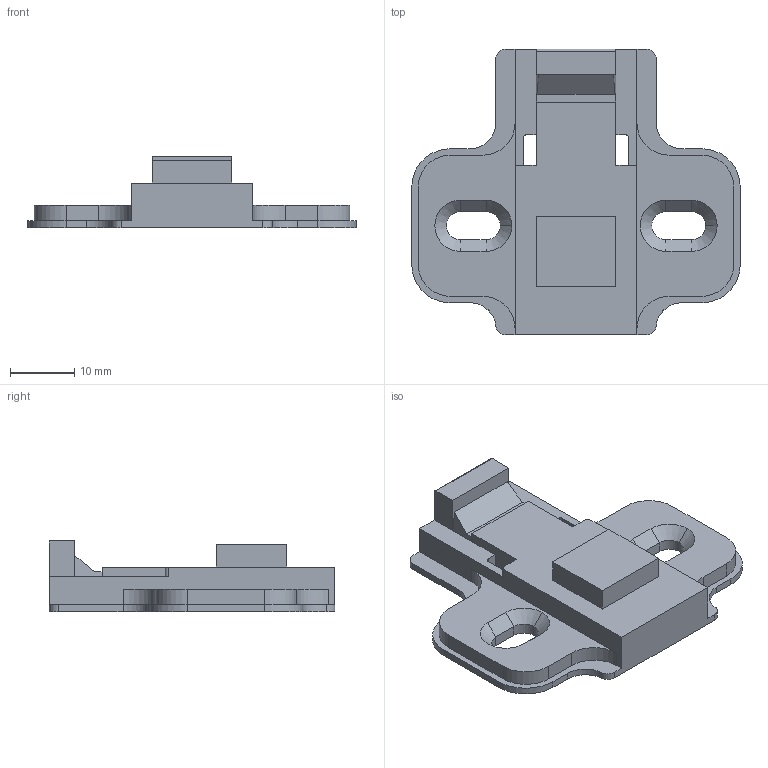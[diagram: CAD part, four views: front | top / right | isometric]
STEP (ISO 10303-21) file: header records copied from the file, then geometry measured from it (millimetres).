
FILE_DESCRIPTION (( 'STEP AP203' ), '1' );
FILE_NAME ('96H20AQ-DTC3D.STEP', '2021-04-13T02:28:41', ( '' ), ( '' ), 'SwSTEP 2.0', 'SolidWorks 2018', '' );
FILE_SCHEMA (( 'CONFIG_CONTROL_DESIGN' ));
Length unit declared in the file: millimetre
Products named in the file (1): 96H20AQ-DTC3D
Bounding box: 51.2 x 44.5 x 11.2 mm (x, y, z)
Volume: 8574 mm3; surface area: 4876.1 mm2
Topology: 1 solids, 1 shells, 93 faces, 264 edges, 172 vertices
Faces by surface type: plane 56, cylinder 31, cone 6
Entity records: 3105 total; most frequent: CARTESIAN_POINT 530, ORIENTED_EDGE 528, DIRECTION 522, EDGE_CURVE 264, LINE 194, VECTOR 194, VERTEX_POINT 172, AXIS2_PLACEMENT_3D 164
